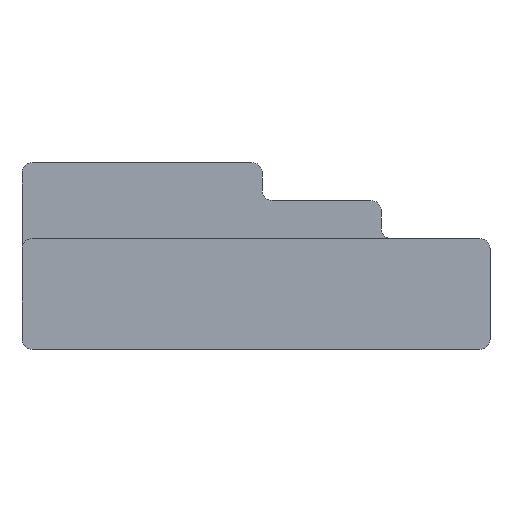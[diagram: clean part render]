
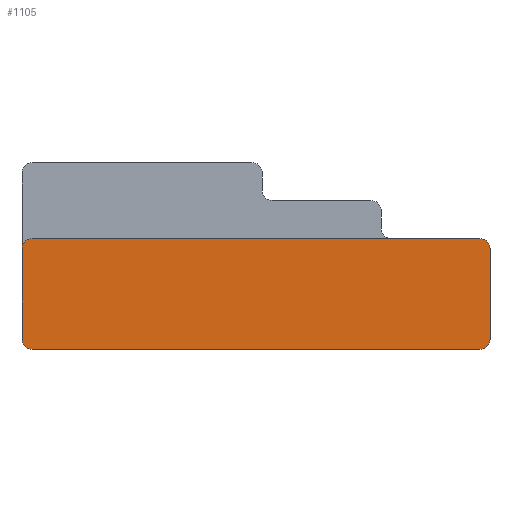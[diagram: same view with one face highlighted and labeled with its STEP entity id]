
A CAD part, front view. The second image highlights one B-rep face of the part: STEP entity #1105.
In plain terms, the highlighted planar face has unit normal (0, -1, 0).
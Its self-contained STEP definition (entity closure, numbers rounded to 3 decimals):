
#200=CARTESIAN_POINT('',(-10.9,-11.6,4.9));
#201=DIRECTION('',(0.,-1.,0.));
#202=DIRECTION('',(0.,0.,1.));
#203=AXIS2_PLACEMENT_3D('',#200,#201,#202);
#205=CARTESIAN_POINT('',(10.9,-11.6,4.9));
#206=DIRECTION('',(0.,-1.,0.));
#207=DIRECTION('',(1.,0.,0.));
#208=AXIS2_PLACEMENT_3D('',#205,#206,#207);
#210=CARTESIAN_POINT('',(10.9,-11.6,0.5));
#211=DIRECTION('',(0.,-1.,0.));
#212=DIRECTION('',(0.,0.,-1.));
#213=AXIS2_PLACEMENT_3D('',#210,#211,#212);
#215=CARTESIAN_POINT('',(-10.9,-11.6,0.5));
#216=DIRECTION('',(0.,-1.,0.));
#217=DIRECTION('',(-1.,0.,0.));
#218=AXIS2_PLACEMENT_3D('',#215,#216,#217);
#220=DIRECTION('',(0.,0.,1.));
#221=VECTOR('',#220,4.4);
#222=CARTESIAN_POINT('',(-11.4,-11.6,0.5));
#223=LINE('',#222,#221);
#308=DIRECTION('',(1.,0.,0.));
#309=VECTOR('',#308,21.8);
#310=CARTESIAN_POINT('',(-10.9,-11.6,5.4));
#311=LINE('',#310,#309);
#500=DIRECTION('',(1.,0.,0.));
#501=VECTOR('',#500,21.8);
#502=CARTESIAN_POINT('',(-10.9,-11.6,0.));
#503=LINE('',#502,#501);
#570=DIRECTION('',(0.,0.,1.));
#571=VECTOR('',#570,4.4);
#572=CARTESIAN_POINT('',(11.4,-11.6,0.5));
#573=LINE('',#572,#571);
#716=CARTESIAN_POINT('',(-10.9,-11.6,5.4));
#717=CARTESIAN_POINT('',(-11.4,-11.6,4.9));
#718=VERTEX_POINT('',#716);
#719=VERTEX_POINT('',#717);
#744=CARTESIAN_POINT('',(11.4,-11.6,4.9));
#745=VERTEX_POINT('',#744);
#746=CARTESIAN_POINT('',(10.9,-11.6,5.4));
#747=VERTEX_POINT('',#746);
#748=CARTESIAN_POINT('',(10.9,-11.6,0.));
#749=CARTESIAN_POINT('',(11.4,-11.6,0.5));
#750=VERTEX_POINT('',#748);
#751=VERTEX_POINT('',#749);
#760=CARTESIAN_POINT('',(-11.4,-11.6,0.5));
#761=VERTEX_POINT('',#760);
#762=CARTESIAN_POINT('',(-10.9,-11.6,0.));
#763=VERTEX_POINT('',#762);
#1083=CARTESIAN_POINT('',(-11.4,-11.6,0.));
#1084=DIRECTION('',(0.,-1.,0.));
#1085=DIRECTION('',(1.,0.,0.));
#1086=AXIS2_PLACEMENT_3D('',#1083,#1084,#1085);
#1087=PLANE('',#1086);
#1089=ORIENTED_EDGE('',*,*,#1088,.F.);
#1091=ORIENTED_EDGE('',*,*,#1090,.T.);
#1093=ORIENTED_EDGE('',*,*,#1092,.F.);
#1095=ORIENTED_EDGE('',*,*,#1094,.F.);
#1096=ORIENTED_EDGE('',*,*,#1073,.F.);
#1098=ORIENTED_EDGE('',*,*,#1097,.F.);
#1100=ORIENTED_EDGE('',*,*,#1099,.F.);
#1102=ORIENTED_EDGE('',*,*,#1101,.T.);
#1103=EDGE_LOOP('',(#1089,#1091,#1093,#1095,#1096,#1098,#1100,#1102));
#1104=FACE_OUTER_BOUND('',#1103,.F.);
#1105=ADVANCED_FACE('',(#1104),#1087,.T.);
#204=CIRCLE('',#203,0.5);
#209=CIRCLE('',#208,0.5);
#214=CIRCLE('',#213,0.5);
#219=CIRCLE('',#218,0.5);
#1073=EDGE_CURVE('',#750,#751,#214,.T.);
#1088=EDGE_CURVE('',#718,#719,#204,.T.);
#1090=EDGE_CURVE('',#718,#747,#311,.T.);
#1092=EDGE_CURVE('',#745,#747,#209,.T.);
#1094=EDGE_CURVE('',#751,#745,#573,.T.);
#1097=EDGE_CURVE('',#763,#750,#503,.T.);
#1099=EDGE_CURVE('',#761,#763,#219,.T.);
#1101=EDGE_CURVE('',#761,#719,#223,.T.);
